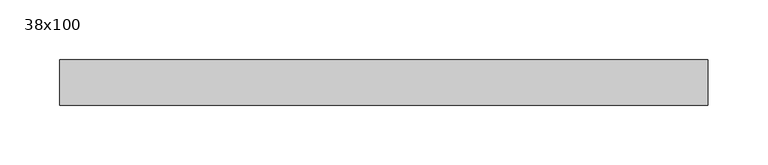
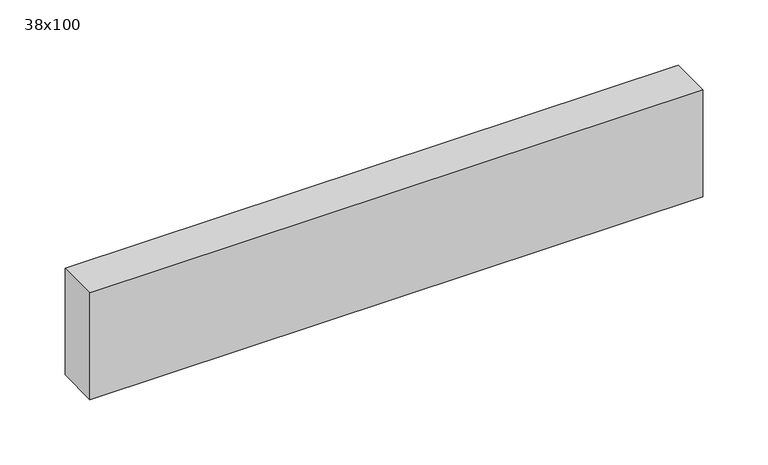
"""IFC4 building model written with IfcOpenShell, lengths in millimetres: beam geometry, Poutre - Bois de construction de dimensions courantes : 38x100."""

from ifc_helpers import new_model, si_unit, frame, origin, place, context, project, spatial, polyline, outline, extrude, source, transform, mapped, element, save


def beam_38x100_88bc303a(model_context):
    return source(origin(), model_context, "Body", "SweptSolid", [
        extrude(outline(polyline([(191.5, 19.05), (191.5, -19.05), (-351.5, -19.05), (-351.5, 19.05), (191.5, 19.05)])), frame((0.0, 0.0, -50.0), z_axis=(0.0, 0.0, 1.0), x_axis=(1.0, 0.0, 0.0)), (0.0, 0.0, 1.0), 100.0),
    ])


if __name__ == "__main__":
    model = new_model("IFC4")
    model_context = context("Model", 3, world=origin())
    ifc_project = project(units=[si_unit("LENGTHUNIT", "METRE", prefix="MILLI")], contexts=[model_context])
    site = spatial("IfcSite", under=ifc_project)
    building = spatial("IfcBuilding", under=site)
    placement = place(None, origin())
    beam_38x100_shape = beam_38x100_88bc303a(model_context)
    element("IfcBeam", 1, ObjectType="Poutre - Bois de construction de dimensions courantes : 38x100", at=placement, inside=building, context=model_context, shape_type="MappedRepresentation", body=[
        mapped(beam_38x100_shape, transform((0.0, 0.0, 0.0), x_axis=(1.0, 0.0, 0.0), y_axis=(0.0, 1.0, 0.0), z_axis=(0.0, 0.0, 1.0))),
    ])
    save(model, "model.ifc")
